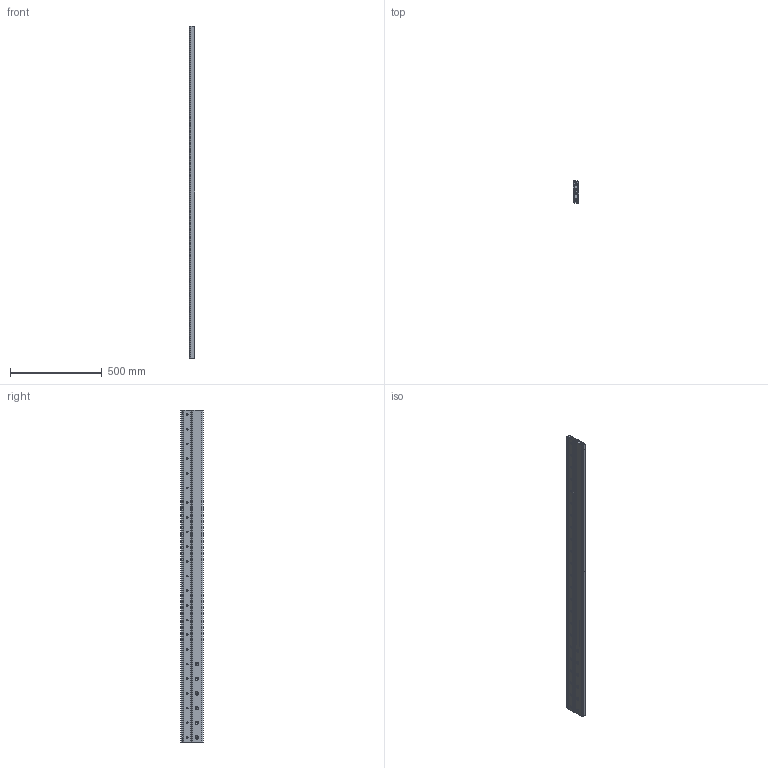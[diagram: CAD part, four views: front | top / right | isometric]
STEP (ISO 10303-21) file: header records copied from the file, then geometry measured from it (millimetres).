
FILE_DESCRIPTION(('STEP AP214'),'1');
FILE_NAME('rail_dss43-1810_00.stp','2017-04-17T04:00:33',('TraceParts'),('TraceParts S.A.'),'Spatial InterOp 3D',' ',' ');
FILE_SCHEMA(('automotive_design'));
Length unit declared in the file: millimetre
Products named in the file (3): rail_dss43-1810_00_1; rail_dss43-1810_00_2; rail_dss43-1810_00_3
Bounding box: 28 x 120 x 1810 mm (x, y, z)
Volume: 3206988.4 mm3; surface area: 1290086.5 mm2
Topology: 3 solids, 3 shells, 398 faces, 1054 edges, 672 vertices
Faces by surface type: cylinder 168, plane 138, cone 92
Entity records: 12663 total; most frequent: DIRECTION 2300, CARTESIAN_POINT 2127, ORIENTED_EDGE 2108, EDGE_CURVE 1054, AXIS2_PLACEMENT_3D 845, VERTEX_POINT 672, LINE 610, VECTOR 610
